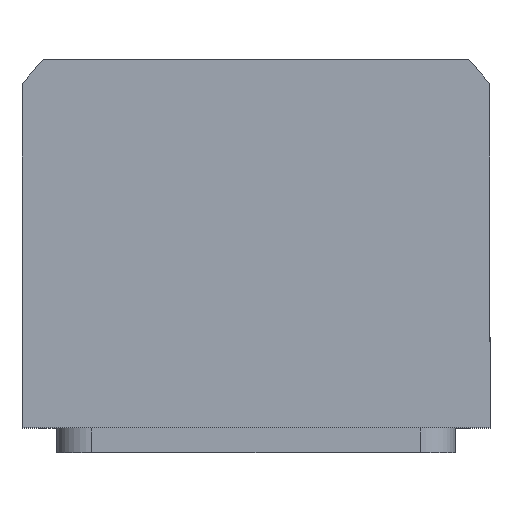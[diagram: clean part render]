
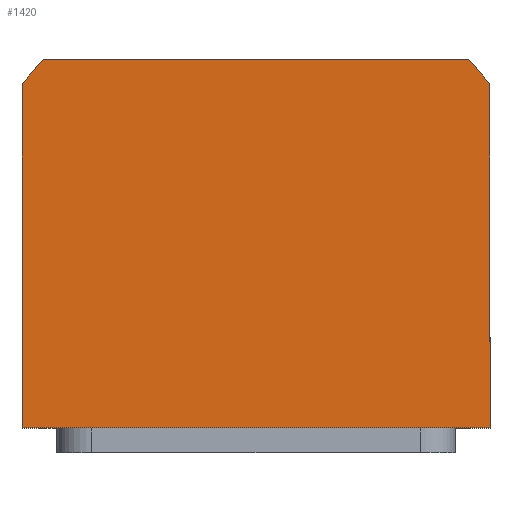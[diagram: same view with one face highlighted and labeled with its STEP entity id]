
A CAD part, top view. The second image highlights one B-rep face of the part: STEP entity #1420.
In plain terms, the highlighted planar face has unit normal (0, 0, 1).
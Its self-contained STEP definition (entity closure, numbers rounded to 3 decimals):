
#101 = CARTESIAN_POINT ( 'NONE',  ( 47., -34., 45. ) ) ;
#447 = DIRECTION ( 'NONE',  ( -1., 0., 0. ) ) ;
#479 = CARTESIAN_POINT ( 'NONE',  ( 0., 0., 45. ) ) ;
#539 = CARTESIAN_POINT ( 'NONE',  ( -47., -34., 45. ) ) ;
#586 = EDGE_CURVE ( 'NONE', #9164, #8954, #7472, .T. ) ;
#789 = EDGE_CURVE ( 'NONE', #8678, #867, #3182, .T. ) ;
#867 = VERTEX_POINT ( 'NONE', #3856 ) ;
#908 = DIRECTION ( 'NONE',  ( 1., 0., 0. ) ) ;
#1320 = ORIENTED_EDGE ( 'NONE', *, *, #789, .T. ) ;
#1420 = ADVANCED_FACE ( 'NONE', ( #8634 ), #5637, .T. ) ;
#2042 = AXIS2_PLACEMENT_3D ( 'NONE', #5389, #4489, #6214 ) ;
#2251 = LINE ( 'NONE', #101, #7714 ) ;
#2291 = CARTESIAN_POINT ( 'NONE',  ( 42.688, 40., 45. ) ) ;
#2480 = ORIENTED_EDGE ( 'NONE', *, *, #10023, .T. ) ;
#2674 = VERTEX_POINT ( 'NONE', #6792 ) ;
#3182 = LINE ( 'NONE', #10692, #3850 ) ;
#3778 = CIRCLE ( 'NONE', #7423, 58.5 ) ;
#3791 = DIRECTION ( 'NONE',  ( 0., 1., 0. ) ) ;
#3850 = VECTOR ( 'NONE', #447, 1000. ) ;
#3856 = CARTESIAN_POINT ( 'NONE',  ( -42.688, 40., 45. ) ) ;
#3945 = DIRECTION ( 'NONE',  ( 1., 0., 0. ) ) ;
#4489 = DIRECTION ( 'NONE',  ( 0., 0., 1. ) ) ;
#4593 = VECTOR ( 'NONE', #3791, 1000. ) ;
#4935 = ORIENTED_EDGE ( 'NONE', *, *, #9233, .T. ) ;
#5389 = CARTESIAN_POINT ( 'NONE',  ( 0., 0., 45. ) ) ;
#5411 = ORIENTED_EDGE ( 'NONE', *, *, #586, .T. ) ;
#5597 = DIRECTION ( 'NONE',  ( 0., 0., 1. ) ) ;
#5637 = PLANE ( 'NONE',  #6895 ) ;
#6214 = DIRECTION ( 'NONE',  ( 1., 0., 0. ) ) ;
#6792 = CARTESIAN_POINT ( 'NONE',  ( 47., 34.832, 45. ) ) ;
#6895 = AXIS2_PLACEMENT_3D ( 'NONE', #479, #5597, #3945 ) ;
#6963 = CARTESIAN_POINT ( 'NONE',  ( 0., 0., 45. ) ) ;
#7423 = AXIS2_PLACEMENT_3D ( 'NONE', #6963, #7848, #908 ) ;
#7472 = LINE ( 'NONE', #539, #10813 ) ;
#7521 = DIRECTION ( 'NONE',  ( 0., -1., 0. ) ) ;
#7624 = ORIENTED_EDGE ( 'NONE', *, *, #9373, .T. ) ;
#7705 = VERTEX_POINT ( 'NONE', #7838 ) ;
#7714 = VECTOR ( 'NONE', #8644, 1000. ) ;
#7838 = CARTESIAN_POINT ( 'NONE',  ( 47., -34., 45. ) ) ;
#7848 = DIRECTION ( 'NONE',  ( 0., 0., 1. ) ) ;
#8115 = CIRCLE ( 'NONE', #2042, 58.5 ) ;
#8634 = FACE_OUTER_BOUND ( 'NONE', #9492, .T. ) ;
#8644 = DIRECTION ( 'NONE',  ( 1., 0., 0. ) ) ;
#8678 = VERTEX_POINT ( 'NONE', #2291 ) ;
#8718 = LINE ( 'NONE', #8857, #4593 ) ;
#8751 = CARTESIAN_POINT ( 'NONE',  ( -47., -34., 45. ) ) ;
#8857 = CARTESIAN_POINT ( 'NONE',  ( 47., 34.832, 45. ) ) ;
#8954 = VERTEX_POINT ( 'NONE', #8751 ) ;
#9164 = VERTEX_POINT ( 'NONE', #10431 ) ;
#9218 = ORIENTED_EDGE ( 'NONE', *, *, #9314, .T. ) ;
#9233 = EDGE_CURVE ( 'NONE', #867, #9164, #3778, .T. ) ;
#9314 = EDGE_CURVE ( 'NONE', #7705, #2674, #8718, .T. ) ;
#9373 = EDGE_CURVE ( 'NONE', #2674, #8678, #8115, .T. ) ;
#9492 = EDGE_LOOP ( 'NONE', ( #2480, #9218, #7624, #1320, #4935, #5411 ) ) ;
#10023 = EDGE_CURVE ( 'NONE', #8954, #7705, #2251, .T. ) ;
#10431 = CARTESIAN_POINT ( 'NONE',  ( -47., 34.832, 45. ) ) ;
#10692 = CARTESIAN_POINT ( 'NONE',  ( -42.688, 40., 45. ) ) ;
#10813 = VECTOR ( 'NONE', #7521, 1000. ) ;
